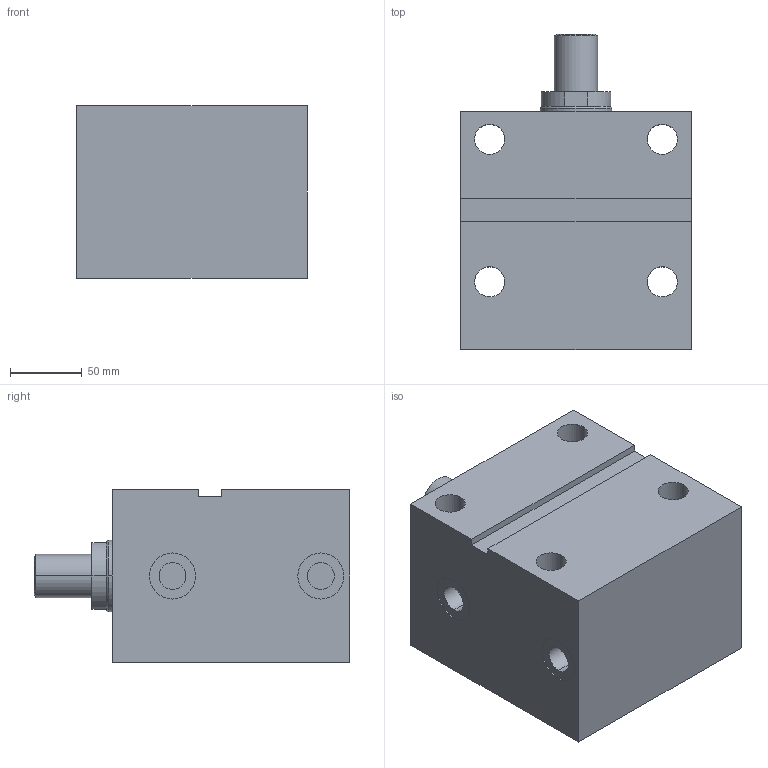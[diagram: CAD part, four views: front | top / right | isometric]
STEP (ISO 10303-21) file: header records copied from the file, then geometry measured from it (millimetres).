
FILE_DESCRIPTION (( 'STEP AP203' ), '1' );
FILE_NAME ('GERMA_Blockzylinder_601-080-080-A.STEP', '2015-10-09T08:49:43', ( '' ), ( '' ), 'SwSTEP 2.0', 'SolidWorks 2015', '' );
FILE_SCHEMA (( 'CONFIG_CONTROL_DESIGN' ));
Length unit declared in the file: millimetre
Products named in the file (3): GH-600-080_GH-601-080-080; Kolben 60x-080_Kolben DU.80-Hub80-AG; GERMA_Blockzylinder_601-080-080-A
Assembly tree (2 placements, depth 2):
  GERMA_Blockzylinder_601-080-080-A
    GH-600-080_GH-601-080-080
    Kolben 60x-080_Kolben DU.80-Hub80-AG
Bounding box: 160 x 219 x 120 mm (x, y, z)
Volume: 2787344 mm3; surface area: 245724.4 mm2
Topology: 2 solids, 2 shells, 73 faces, 162 edges, 101 vertices
Faces by surface type: cylinder 35, plane 26, cone 12
Entity records: 2330 total; most frequent: DIRECTION 395, CARTESIAN_POINT 337, ORIENTED_EDGE 316, AXIS2_PLACEMENT_3D 159, EDGE_CURVE 158, VERTEX_POINT 101, EDGE_LOOP 93, CIRCLE 81
